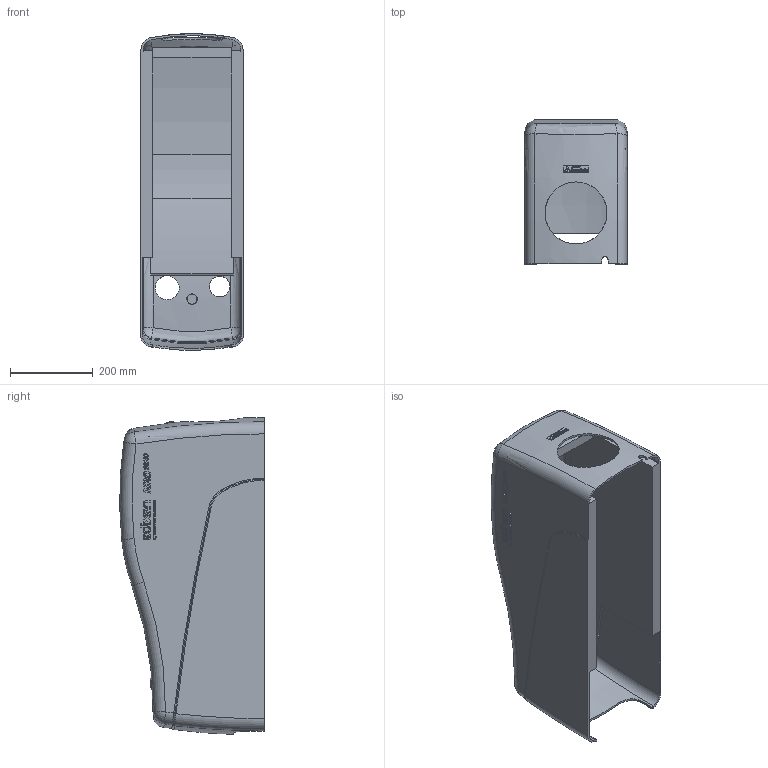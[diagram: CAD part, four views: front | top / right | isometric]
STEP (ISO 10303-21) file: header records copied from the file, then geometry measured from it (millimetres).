
FILE_DESCRIPTION((''),'2;1');
FILE_NAME('ENV_CAPOT-INSONO-EQ-NRC28','2014-11-06T',('JMOREL'),(''),'PRO/ENGINEER BY PARAMETRIC TECHNOLOGY CORPORATION, 2014090','PRO/ENGINEER BY PARAMETRIC TECHNOLOGY CORPORATION, 2014090','');
FILE_SCHEMA(('CONFIG_CONTROL_DESIGN'));
Products named in the file (1): ENV_CAPOT-INSONO-EQ-NRC28
Bounding box: 250 x 349.81 x 766.49 mm (x, y, z)
Volume: 12910203.3 mm3; surface area: 1574251.5 mm2
Topology: 2 solids, 2 shells, 2444 faces, 6803 edges, 4511 vertices
Faces by surface type: extrusion 1373, plane 956, torus 46, cylinder 32, bspline 25, sphere 8, revolution 2, cone 2
Entity records: 86760 total; most frequent: CARTESIAN_POINT 29567, ORIENTED_EDGE 13602, DIRECTION 7614, EDGE_CURVE 6801, VECTOR 5090, VERTEX_POINT 4510, B_SPLINE_CURVE_WITH_KNOTS 4242, LINE 3717
